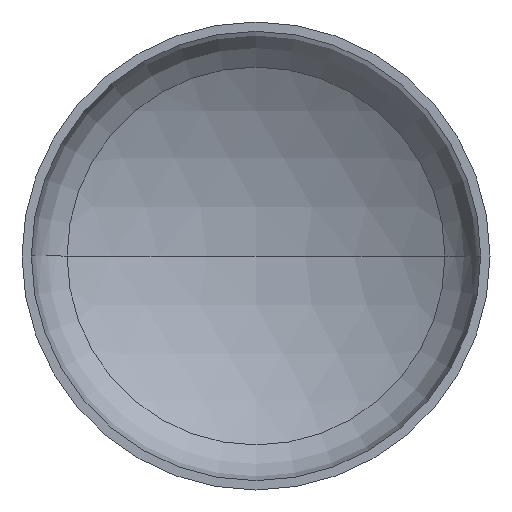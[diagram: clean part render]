
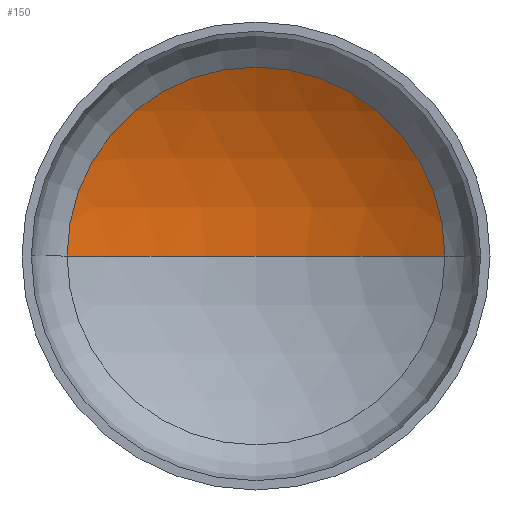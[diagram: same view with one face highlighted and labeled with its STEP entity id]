
A CAD part, front view. The second image highlights one B-rep face of the part: STEP entity #150.
In plain terms, the highlighted spherical face has radius 4000 mm.
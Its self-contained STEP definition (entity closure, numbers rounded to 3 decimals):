
#7 = VERTEX_POINT ( 'NONE', #253 ) ;
#13 = AXIS2_PLACEMENT_3D ( 'NONE', #280, #82, #302 ) ;
#14 = AXIS2_PLACEMENT_3D ( 'NONE', #122, #124, #137 ) ;
#21 = EDGE_LOOP ( 'NONE', ( #71, #48, #163 ) ) ;
#24 = AXIS2_PLACEMENT_3D ( 'NONE', #80, #81, #94 ) ;
#25 = AXIS2_PLACEMENT_3D ( 'NONE', #183, #354, #402 ) ;
#48 = ORIENTED_EDGE ( 'NONE', *, *, #333, .T. ) ;
#51 = VERTEX_POINT ( 'NONE', #251 ) ;
#71 = ORIENTED_EDGE ( 'NONE', *, *, #335, .F. ) ;
#80 = CARTESIAN_POINT ( 'NONE',  ( 0., 764.762, 0. ) ) ;
#81 = DIRECTION ( 'NONE',  ( 0., -1., 0. ) ) ;
#82 = DIRECTION ( 'NONE',  ( 0., 0., 1. ) ) ;
#94 = DIRECTION ( 'NONE',  ( 1., 0., 0. ) ) ;
#122 = CARTESIAN_POINT ( 'NONE',  ( 0., -2688.548, 0. ) ) ;
#124 = DIRECTION ( 'NONE',  ( 0., 0., -1. ) ) ;
#137 = DIRECTION ( 'NONE',  ( -1., 0., 0. ) ) ;
#140 = FACE_OUTER_BOUND ( 'NONE', #21, .T. ) ;
#150 = ADVANCED_FACE ( 'NONE', ( #140 ), #292, .F. ) ;
#163 = ORIENTED_EDGE ( 'NONE', *, *, #328, .T. ) ;
#180 = VERTEX_POINT ( 'NONE', #226 ) ;
#183 = CARTESIAN_POINT ( 'NONE',  ( 0., -2688.548, 0. ) ) ;
#204 = CIRCLE ( 'NONE', #13, 4000. ) ;
#211 = CIRCLE ( 'NONE', #14, 4000. ) ;
#226 = CARTESIAN_POINT ( 'NONE',  ( 2018.576, 764.762, 0. ) ) ;
#251 = CARTESIAN_POINT ( 'NONE',  ( -2018.576, 764.762, 0. ) ) ;
#253 = CARTESIAN_POINT ( 'NONE',  ( 0., 1311.452, 0. ) ) ;
#280 = CARTESIAN_POINT ( 'NONE',  ( 0., -2688.548, 0. ) ) ;
#292 = SPHERICAL_SURFACE ( 'NONE', #25, 4000. ) ;
#302 = DIRECTION ( 'NONE',  ( 1., 0., 0. ) ) ;
#328 = EDGE_CURVE ( 'NONE', #180, #51, #339, .T. ) ;
#333 = EDGE_CURVE ( 'NONE', #7, #180, #211, .T. ) ;
#335 = EDGE_CURVE ( 'NONE', #7, #51, #204, .T. ) ;
#339 = CIRCLE ( 'NONE', #24, 2018.576 ) ;
#354 = DIRECTION ( 'NONE',  ( 0., 0., -1. ) ) ;
#402 = DIRECTION ( 'NONE',  ( -1., 0., 0. ) ) ;
